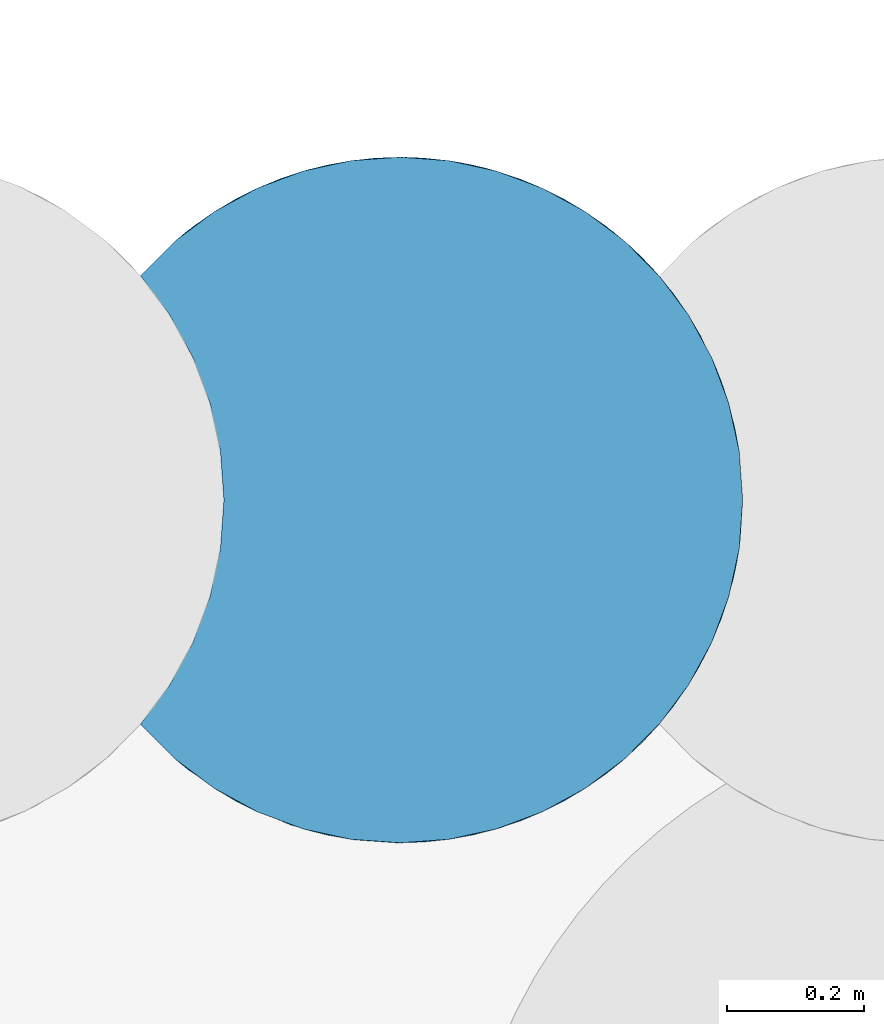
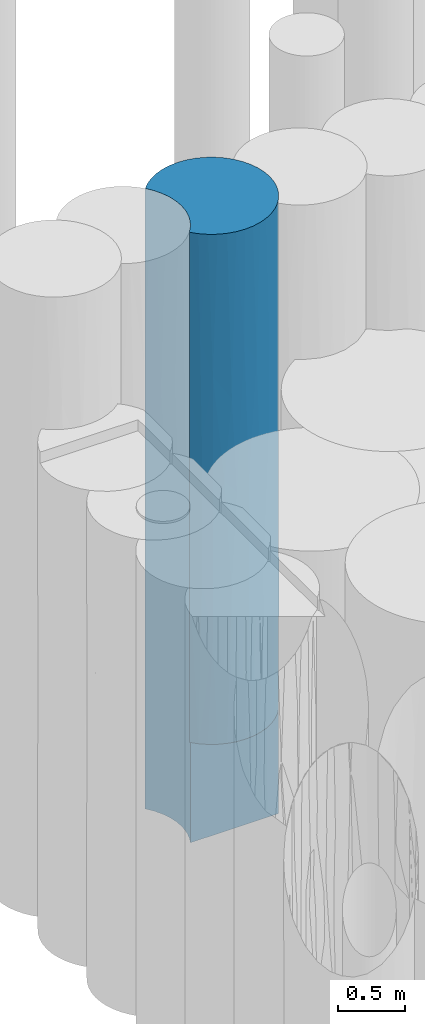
# One storey, part 28 of 104: 1 pile.
"""IFC2X3 building model written with IfcOpenShell, lengths in millimetres."""

from ifc_helpers import new_model, entity, si_unit, converted_unit, derived_unit, direction, frame, origin, place, context, subcontext, project, spatial, faceted_brep, source, transform, mapped, material, element, save


model = new_model("IFC2X3")

# Units and contexts
model_context = context("Model", 3, precision=0.01, world=origin(), true_north=direction((6.12303176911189e-17, 1.0)))
body_context = subcontext(model_context, "Body", "Model", "MODEL_VIEW")
ifc_project = project(units=[si_unit("LENGTHUNIT", "METRE", prefix="MILLI"), si_unit("AREAUNIT", "SQUARE_METRE", prefix="MILLI"), si_unit("VOLUMEUNIT", "CUBIC_METRE"), converted_unit("PLANEANGLEUNIT", "DEGREE", entity("IfcRatioMeasure", 0.0174532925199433), si_unit("PLANEANGLEUNIT", "RADIAN"), dimensions=[0, 0, 0, 0, 0, 0, 0]), si_unit("MASSUNIT", "GRAM", prefix="KILO"), derived_unit("MASSDENSITYUNIT", [(si_unit("MASSUNIT", "GRAM", prefix="KILO"), 1), (si_unit("LENGTHUNIT", "METRE"), -3)]), derived_unit("MOMENTOFINERTIAUNIT", [(si_unit("LENGTHUNIT", "METRE"), 4)]), si_unit("TIMEUNIT", "SECOND"), si_unit("FREQUENCYUNIT", "HERTZ"), si_unit("THERMODYNAMICTEMPERATUREUNIT", "DEGREE_CELSIUS"), derived_unit("THERMALTRANSMITTANCEUNIT", [(si_unit("MASSUNIT", "GRAM", prefix="KILO"), 1), (si_unit("THERMODYNAMICTEMPERATUREUNIT", "KELVIN"), -1), (si_unit("TIMEUNIT", "SECOND"), -3)]), derived_unit("VOLUMETRICFLOWRATEUNIT", [(si_unit("LENGTHUNIT", "METRE"), 3), (si_unit("TIMEUNIT", "SECOND"), -1)]), si_unit("ELECTRICCURRENTUNIT", "AMPERE"), si_unit("ELECTRICVOLTAGEUNIT", "VOLT"), si_unit("POWERUNIT", "WATT"), si_unit("FORCEUNIT", "NEWTON", prefix="KILO"), si_unit("ILLUMINANCEUNIT", "LUX"), si_unit("LUMINOUSFLUXUNIT", "LUMEN"), si_unit("LUMINOUSINTENSITYUNIT", "CANDELA"), derived_unit("USERDEFINED", [(si_unit("MASSUNIT", "GRAM", prefix="KILO"), -1), (si_unit("LENGTHUNIT", "METRE"), -2), (si_unit("TIMEUNIT", "SECOND"), 3), (si_unit("LUMINOUSFLUXUNIT", "LUMEN"), 1)]), derived_unit("LINEARVELOCITYUNIT", [(si_unit("LENGTHUNIT", "METRE"), 1), (si_unit("TIMEUNIT", "SECOND"), -1)]), si_unit("PRESSUREUNIT", "PASCAL"), derived_unit("USERDEFINED", [(si_unit("LENGTHUNIT", "METRE"), -2), (si_unit("MASSUNIT", "GRAM", prefix="KILO"), 1), (si_unit("TIMEUNIT", "SECOND"), -2)]), derived_unit("LINEARFORCEUNIT", [(si_unit("MASSUNIT", "GRAM", prefix="KILO"), 1), (si_unit("LENGTHUNIT", "METRE"), 1), (si_unit("TIMEUNIT", "SECOND"), -2), (si_unit("LENGTHUNIT", "METRE"), -1)]), derived_unit("PLANARFORCEUNIT", [(si_unit("MASSUNIT", "GRAM", prefix="KILO"), 1), (si_unit("LENGTHUNIT", "METRE"), 1), (si_unit("TIMEUNIT", "SECOND"), -2), (si_unit("LENGTHUNIT", "METRE"), -2)])], contexts=[model_context])

# Site, building, storey
site_placement = place(None, origin())
site = spatial("IfcSite", under=ifc_project, at=site_placement, Name="Theater aan de Parade", CompositionType="ELEMENT")
building_placement = place(site_placement, origin())
building = spatial("IfcBuilding", under=site, at=building_placement, Name="Theater aan de Parade", CompositionType="ELEMENT")
storey_placement = place(building_placement, frame((0.0, 0.0, -5520.0)))
storey = spatial("IfcBuildingStorey", under=building, at=storey_placement, Name="-2 kelder", CompositionType="ELEMENT", Elevation=-5520.0)

# Pile
ifc_material = material(Name="00_PBT_MAT_grout")
shared_shape = source(origin(), body_context, "Body", "Brep", [
    faceted_brep([(379.879894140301, 1001.59527223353, 0.0), (451.135842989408, 996.491974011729, 0.0), (520.937017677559, 981.286001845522, 0.0), (587.858902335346, 956.287680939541, 0.0), (650.535674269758, 922.007022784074, 0.0), (707.688019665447, 879.143347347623, 0.0), (758.137916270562, 828.577274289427, 0.0), (800.764509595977, 771.515742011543, 0.0), (834.842988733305, 708.98277557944, 0.0), (859.692501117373, 642.239896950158, 0.0), (874.807578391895, 572.642219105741, 0.0), (879.880986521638, 501.595272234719, 0.0), (876.637177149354, 444.733271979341, 0.0), (866.96351374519, 388.676665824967, 0.0), (850.978622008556, 334.063132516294, 0.0), (828.879872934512, 281.595272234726, 0.0), (72.3084443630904, 281.595272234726, 0.0), (94.4019982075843, 334.04852433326, 0.0), (110.389831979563, 388.666946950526, 0.0), (120.066807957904, 444.742527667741, 0.0), (123.309557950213, 501.595272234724, 0.0), (118.238136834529, 572.628375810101, 0.0), (103.126750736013, 642.220524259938, 0.0), (78.2819444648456, 708.959993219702, 0.0), (44.2077119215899, 771.492926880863, 0.0), (1.59527223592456, 828.550801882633, 0.0), (52.0619478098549, 879.132923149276, 0.0), (109.216398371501, 922.000648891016, 0.0), (171.896165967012, 956.284522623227, 0.0), (238.820552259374, 981.284707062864, 0.0), (308.623372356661, 996.491576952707, 0.0), (868.237975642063, 608.868060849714, 3274.7733182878), (879.880986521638, 501.595272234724, 2496.92455001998), (872.469147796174, 587.367665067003, 2029.23110971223), (874.807578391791, 572.642219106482, 5620.0), (872.790677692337, 585.500196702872, 4448.84672051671), (859.69250108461, 642.239897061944, 5620.0), (840.84871027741, 695.267050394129, 838.572364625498), (780.477533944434, 800.798223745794, 941.938246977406), (717.902638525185, 870.026219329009, 853.985396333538), (464.773906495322, 994.335763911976, 4766.2452474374), (554.84499069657, 969.9835697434, 4677.89128729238), (486.308348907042, 990.13720138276, 3926.99183942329), (780.477533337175, 800.798224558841, 4359.72037239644), (758.157091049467, 828.561919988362, 5620.0), (800.764509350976, 771.515742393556, 5620.0), (469.372625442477, 993.521330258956, 2771.91834266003), (619.810314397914, 940.268177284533, 2810.0), (486.308348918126, 990.137201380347, 1616.84484595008), (503.444214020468, 986.086891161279, 807.926128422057), (72.226388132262, 895.738200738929, 1468.54201705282), (1.59527223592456, 828.550801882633, 1561.53797879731), (273.450019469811, 990.136416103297, 1369.22367124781), (619.810315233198, 940.26817682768, 1308.96625276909), (879.880986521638, 501.595272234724, 4839.23113750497), (744.845895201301, 843.356322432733, 3309.55466343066), (679.878371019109, 901.59723384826, 4157.39703894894), (79.8725308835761, 901.58893036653, 4644.80342660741), (52.0619478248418, 879.132923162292, 5620.0), (109.21639835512, 922.000648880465, 5620.0), (879.880986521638, 501.595272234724, 1561.53772498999), (586.541682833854, 956.887877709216, 3739.26694369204), (389.039049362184, 1001.51139508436, 1793.99271443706), (868.490803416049, 607.710524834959, 929.942290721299), (451.135842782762, 996.491974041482, 5620.0), (379.879894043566, 1001.59527223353, 5620.0), (415.599127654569, 1000.31785483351, 908.530614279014), (848.45759074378, 676.054338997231, 4359.70948984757), (834.842988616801, 708.982775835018, 5620.0), (818.918499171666, 740.85676618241, 3234.26713947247), (1.59527223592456, 828.550801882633, 3123.07595759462), (61.9110545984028, 887.464579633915, 3590.76885422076), (68.1882758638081, 892.552628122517, 2590.58974056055), (344.160365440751, 1000.31767721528, 4295.47011353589), (308.62337232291, 996.491576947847, 5620.0), (650.535673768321, 922.007023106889, 5620.0), (707.688019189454, 879.143347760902, 5620.0), (171.89616594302, 956.284522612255, 5620.0), (238.820552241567, 981.284707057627, 5620.0), (204.911275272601, 969.981437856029, 4644.8057657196), (800.902375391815, 771.300648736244, 1891.90438181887), (848.457591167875, 676.054337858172, 1666.8684301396), (1.59527223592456, 828.550801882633, 5620.0), (139.943160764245, 940.263529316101, 960.825074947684), (879.880986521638, 501.595272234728, 4058.46227500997), (879.880986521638, 501.595272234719, 2810.0), (139.94316053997, 940.263529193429, 1976.25895999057), (249.525796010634, 984.303801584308, 3618.97619833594), (139.943160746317, 940.263529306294, 3852.81729588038), (733.827266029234, 854.755336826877, 1693.03978298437), (1.59527223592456, 828.550801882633, 4058.46202120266), (587.858901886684, 956.287681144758, 5620.0), (520.937017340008, 981.286001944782, 5620.0), (691.049980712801, 892.969590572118, 2404.07247122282), (879.880986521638, 501.595272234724, 5620.0), (148.84113916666, 945.01447449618, 2914.53812772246), (395.600625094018, 1001.34810410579, 3455.05166922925), (236.822647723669, 980.692664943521, 2354.51428914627), (344.160364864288, 1000.317677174, 2614.63322816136), (760.03102754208, 826.381273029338, 2475.87045222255), (852.90126574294, 663.619392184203, 2551.21472388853), (109.218127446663, 81.1887823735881, 1000.0), (171.900334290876, 46.9041151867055, 1000.0), (139.946073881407, 62.9254217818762, 1960.83076234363), (868.249817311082, 394.376406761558, 1095.51766968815), (52.0616515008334, 124.057878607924, 1000.0), (72.2277471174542, 107.451282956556, 2468.55227379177), (219.851591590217, 27.8964303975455, 3377.23961249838), (273.45793561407, 13.0524038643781, 2397.70917771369), (313.934714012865, 5.9632624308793, 3256.16165222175), (238.827254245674, 21.9038666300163, 1000.0), (308.63249502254, 6.69765407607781, 1000.0), (868.576941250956, 395.877422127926, 3250.85384075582), (872.224581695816, 414.430002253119, 4638.91679328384), (379.891107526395, 1.59527233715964, 1000.0), (451.14862368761, 6.70041078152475, 1000.0), (415.611160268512, 2.87355154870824, 2131.63816377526), (619.810315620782, 62.9223678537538, 4675.44822935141), (520.937017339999, 21.9045425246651, 5620.0), (486.308349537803, 13.0533432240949, 4394.9584207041), (139.943161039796, 62.9270150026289, 4329.65432444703), (171.89616594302, 46.9060218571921, 5620.0), (109.216398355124, 81.1898955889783, 5620.0), (415.611160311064, 2.87355155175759, 3309.99156499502), (374.929221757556, 1.61979281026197, 4574.50689499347), (139.946073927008, 62.9254217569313, 2976.27378498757), (554.858770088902, 33.2121221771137, 2398.16872201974), (520.950689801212, 21.9085632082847, 1000.0), (587.872693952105, 46.9091721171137, 1000.0), (865.283747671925, 381.661292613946, 2185.76885280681), (650.548786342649, 81.191963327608, 1000.0), (679.890799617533, 101.602632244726, 2277.93081230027), (753.904323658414, 169.772212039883, 1973.19405511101), (778.382906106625, 199.608153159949, 3310.00863151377), (702.650683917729, 119.731785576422, 3256.91390852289), (1.59527223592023, 174.639742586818, 2561.53770750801), (1.59527223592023, 174.639742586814, 3342.30656126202), (1.59527223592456, 174.639742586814, 4123.07541501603), (71.0484315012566, 108.374656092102, 3732.69098814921), (61.1388618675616, 116.363578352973, 4662.75544674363), (834.030131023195, 292.433720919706, 3150.31987590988), (848.457591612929, 327.136207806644, 4098.49681985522), (828.879872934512, 281.595272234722, 1000.0), (523.466913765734, 22.6557337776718, 3362.22140211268), (273.450019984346, 13.0541282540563, 4114.5813713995), (238.820552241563, 21.9058374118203, 5620.0), (308.623372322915, 6.69896752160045, 5620.0), (1.59527223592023, 174.639742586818, 1000.0), (451.135842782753, 6.69857042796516, 5620.0), (379.879894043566, 1.5952722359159, 5620.0), (619.810315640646, 62.9223678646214, 3675.4049436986), (707.699703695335, 124.05734212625, 1000.0), (813.813841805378, 253.195841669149, 2211.63549262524), (796.953909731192, 225.823307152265, 1000.0), (800.764509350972, 231.674802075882, 5620.0), (800.620012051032, 231.449621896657, 4238.53718624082), (834.842988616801, 294.207768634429, 5620.0), (758.166700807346, 174.639742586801, 1000.0), (733.827266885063, 148.43520850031, 4404.10424705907), (758.157091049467, 174.628624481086, 5620.0), (587.85890188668, 46.9028633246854, 5620.0), (859.692501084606, 360.950647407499, 5620.0), (1.59527223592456, 174.639742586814, 5620.0), (650.535673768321, 81.1835213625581, 5620.0), (707.688019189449, 124.047196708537, 5620.0), (874.807578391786, 430.548325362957, 5620.0), (52.0619478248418, 124.057621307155, 5620.0), (118.238136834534, 572.628375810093, 5620.0), (123.309557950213, 501.595272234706, 5620.0), (118.238136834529, 430.562168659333, 5620.0), (103.126750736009, 360.970020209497, 5620.0), (78.2819444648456, 294.230551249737, 5620.0), (44.2077119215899, 231.697617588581, 5620.0), (44.2077119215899, 771.492926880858, 5620.0), (78.2819444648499, 708.959993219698, 5620.0), (103.126750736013, 642.220524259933, 5620.0), (57.6972719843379, 749.198410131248, 1466.57770300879), (91.8940522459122, 676.033145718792, 959.607558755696), (91.8940518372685, 676.033146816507, 1973.54784366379), (51.0253182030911, 760.553238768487, 3590.76885486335), (55.246519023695, 753.449320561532, 2591.96489924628), (114.790868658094, 593.498053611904, 2591.96487227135), (113.865321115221, 598.316744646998, 1466.57769835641), (123.309557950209, 501.595272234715, 1561.53772533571), (116.242558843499, 585.363145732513, 3590.76885123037), (123.309557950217, 501.595272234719, 3123.07545067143), (123.309557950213, 501.595272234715, 4058.46227466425), (91.8940514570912, 676.033147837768, 3856.20826799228), (111.923000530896, 607.693828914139, 4646.91290735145), (62.3595462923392, 740.833872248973, 4646.91290345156), (123.309557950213, 501.595272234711, 2810.0), (62.3595469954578, 262.356673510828, 4717.37896061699), (111.564927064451, 393.860901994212, 1098.76555933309), (72.308444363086, 281.595272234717, 1000.0), (103.748191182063, 363.108017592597, 2185.76885279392), (59.5557267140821, 257.28137529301, 2036.35430148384), (80.3363404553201, 298.798526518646, 3013.88536214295), (40.394470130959, 225.841439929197, 1000.0), (52.9290067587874, 245.807998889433, 3897.62512214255), (111.923000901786, 395.496717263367, 4717.37896068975), (91.8940525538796, 327.157399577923, 4015.21085337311), (113.298293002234, 402.041068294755, 3273.65625530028)], [[[0, 1, 2, 3, 4, 5, 6, 7, 8, 9, 10, 11, 12, 13, 14, 15, 16, 17, 18, 19, 20, 21, 22, 23, 24, 25, 26, 27, 28, 29, 30]], [[31, 32, 33]], [[34, 35, 36]], [[37, 7, 38]], [[6, 5, 39]], [[7, 6, 38]], [[40, 41, 42]], [[43, 44, 45]], [[46, 47, 48]], [[2, 49, 3]], [[50, 26, 51]], [[30, 29, 52]], [[53, 39, 4]], [[38, 6, 39]], [[35, 34, 54]], [[55, 47, 56]], [[53, 4, 3]], [[57, 58, 59]], [[60, 33, 32]], [[41, 61, 42]], [[48, 62, 46]], [[63, 10, 9]], [[64, 40, 65]], [[66, 62, 48]], [[36, 67, 68]], [[53, 3, 49]], [[67, 43, 68]], [[69, 67, 31]], [[70, 71, 72]], [[68, 43, 45]], [[73, 74, 65]], [[75, 76, 56]], [[77, 78, 79]], [[41, 75, 56]], [[37, 80, 81]], [[30, 52, 66]], [[82, 58, 57]], [[48, 49, 66]], [[55, 43, 69]], [[52, 29, 83]], [[31, 84, 85, 32]], [[86, 83, 50]], [[79, 87, 88]], [[63, 9, 37]], [[37, 9, 8]], [[39, 89, 38]], [[51, 26, 25]], [[83, 28, 27]], [[47, 53, 48]], [[11, 10, 63]], [[90, 71, 70]], [[67, 69, 43]], [[91, 41, 92]], [[93, 53, 47]], [[41, 40, 92]], [[40, 64, 92]], [[34, 94, 54]], [[56, 43, 55]], [[66, 49, 1]], [[79, 88, 57]], [[72, 95, 86]], [[42, 96, 73]], [[97, 52, 86]], [[79, 74, 73]], [[83, 29, 28]], [[59, 77, 79]], [[43, 76, 44]], [[72, 51, 70]], [[1, 0, 66]], [[76, 43, 56]], [[79, 57, 59]], [[83, 27, 26]], [[52, 83, 86]], [[74, 79, 78]], [[87, 79, 73]], [[71, 57, 88]], [[82, 57, 90]], [[75, 41, 91]], [[61, 56, 47]], [[80, 38, 89]], [[37, 81, 63]], [[33, 63, 81]], [[11, 63, 60]], [[30, 66, 0]], [[62, 52, 98]], [[96, 87, 73]], [[95, 97, 86]], [[99, 80, 89]], [[100, 80, 69]], [[56, 61, 41]], [[46, 61, 47]], [[63, 33, 60]], [[33, 100, 31]], [[33, 81, 100]], [[67, 35, 31]], [[57, 71, 90]], [[95, 72, 71]], [[95, 71, 88]], [[72, 86, 50]], [[80, 100, 81]], [[69, 31, 100]], [[52, 62, 66]], [[46, 62, 98]], [[88, 87, 95]], [[97, 87, 98]], [[87, 97, 95]], [[52, 97, 98]], [[99, 69, 80]], [[99, 93, 55]], [[26, 50, 83]], [[72, 50, 51]], [[42, 73, 40]], [[65, 40, 73]], [[4, 39, 5]], [[53, 89, 39]], [[7, 37, 8]], [[80, 37, 38]], [[53, 49, 48]], [[1, 49, 2]], [[93, 99, 89]], [[69, 99, 55]], [[53, 93, 89]], [[55, 93, 47]], [[96, 46, 98]], [[46, 42, 61]], [[46, 96, 42]], [[87, 96, 98]], [[35, 54, 84]], [[31, 35, 84]], [[35, 67, 36]], [[101, 102, 103]], [[11, 60, 104]], [[105, 103, 106]], [[107, 108, 109]], [[108, 110, 111]], [[112, 84, 113]], [[114, 115, 116]], [[117, 118, 119]], [[120, 121, 122]], [[123, 119, 124]], [[103, 110, 108]], [[108, 111, 116]], [[108, 125, 103]], [[126, 127, 128]], [[129, 104, 60]], [[130, 131, 128]], [[132, 133, 134]], [[127, 126, 116]], [[135, 106, 136]], [[137, 138, 139]], [[140, 112, 141]], [[142, 14, 104]], [[138, 106, 125]], [[141, 112, 113]], [[143, 116, 126]], [[120, 144, 145]], [[145, 144, 146]], [[146, 144, 124]], [[109, 123, 124]], [[147, 105, 135]], [[148, 149, 124]], [[116, 111, 114]], [[148, 119, 118]], [[150, 143, 126]], [[131, 130, 151]], [[112, 129, 85]], [[152, 132, 153]], [[154, 155, 156]], [[132, 157, 153]], [[158, 155, 159]], [[129, 112, 140]], [[152, 153, 142]], [[129, 60, 32, 85]], [[116, 123, 109]], [[13, 104, 14]], [[117, 160, 118]], [[106, 103, 125]], [[12, 11, 104]], [[14, 142, 15]], [[103, 102, 110]], [[103, 105, 101]], [[161, 156, 141]], [[126, 128, 131]], [[162, 137, 139]], [[117, 163, 160]], [[126, 131, 150]], [[151, 157, 132]], [[107, 120, 125]], [[158, 164, 117]], [[133, 155, 158]], [[117, 164, 163]], [[158, 159, 164]], [[155, 154, 159]], [[94, 165, 113]], [[119, 150, 117]], [[143, 119, 123]], [[120, 145, 121]], [[134, 158, 150]], [[113, 161, 141]], [[150, 131, 134]], [[116, 115, 127]], [[148, 124, 119]], [[158, 117, 150]], [[122, 166, 139]], [[142, 129, 152]], [[138, 120, 139]], [[105, 106, 135]], [[138, 137, 136]], [[106, 138, 136]], [[125, 120, 138]], [[122, 139, 120]], [[162, 139, 166]], [[142, 104, 129]], [[12, 104, 13]], [[84, 112, 85]], [[155, 140, 141]], [[133, 152, 140]], [[129, 140, 152]], [[113, 84, 54, 94]], [[161, 113, 165]], [[119, 143, 150]], [[116, 143, 123]], [[107, 109, 144]], [[116, 109, 108]], [[120, 107, 144]], [[108, 107, 125]], [[133, 132, 152]], [[151, 132, 131]], [[132, 134, 131]], [[158, 134, 133]], [[140, 155, 133]], [[155, 141, 156]], [[146, 124, 149]], [[124, 144, 109]], [[167, 168, 169, 170, 171, 172, 162, 166, 122, 121, 145, 146, 149, 148, 118, 160, 163, 164, 159, 154, 156, 161, 165, 94, 34, 36, 68, 45, 44, 76, 75, 91, 92, 64, 65, 74, 78, 77, 59, 58, 82, 173, 174, 175]], [[176, 177, 178]], [[179, 70, 180]], [[181, 182, 183]], [[24, 51, 25]], [[184, 185, 186]], [[21, 182, 177]], [[187, 188, 189]], [[22, 21, 177]], [[23, 22, 177]], [[70, 51, 180]], [[188, 167, 175]], [[188, 186, 168]], [[90, 70, 179]], [[174, 173, 189]], [[24, 23, 177]], [[175, 174, 188]], [[174, 189, 188]], [[187, 181, 184]], [[189, 173, 82]], [[51, 24, 176]], [[178, 177, 182]], [[183, 21, 20]], [[167, 188, 168]], [[186, 188, 184]], [[187, 189, 179]], [[90, 189, 82]], [[185, 184, 181]], [[187, 184, 188]], [[181, 183, 190, 185]], [[180, 178, 181]], [[90, 179, 189]], [[180, 181, 187]], [[179, 180, 187]], [[176, 178, 180]], [[177, 176, 24]], [[51, 176, 180]], [[178, 182, 181]], [[183, 182, 21]], [[172, 171, 191]], [[192, 17, 193]], [[194, 195, 196]], [[147, 195, 197]], [[192, 193, 194]], [[198, 135, 136, 137]], [[193, 197, 195]], [[168, 199, 169]], [[191, 137, 162]], [[198, 191, 200]], [[17, 16, 193]], [[196, 198, 200]], [[183, 194, 190]], [[172, 191, 162]], [[186, 199, 168]], [[199, 191, 171, 170]], [[18, 17, 192]], [[20, 19, 192]], [[186, 201, 199]], [[200, 191, 199]], [[169, 199, 170]], [[200, 199, 201]], [[137, 191, 198]], [[201, 196, 200]], [[192, 183, 20]], [[201, 190, 194]], [[196, 135, 198]], [[193, 195, 194]], [[195, 135, 196]], [[147, 135, 195]], [[196, 201, 194]], [[201, 186, 185, 190]], [[18, 192, 19]], [[183, 192, 194]], [[102, 101, 105, 147, 197, 193, 142, 153, 157, 151, 130, 128, 127, 115, 114, 111, 110]], [[193, 16, 15, 142]]]),
])
pile_placement = place(storey_placement, frame((35887.120000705, 26760.7721311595, -3840.0)))
element("IfcPile", 1, at=pile_placement, inside=storey, material=ifc_material, Name="17_PBT_SFO_grondkering_rond:Ø1000 (grondkering)", ObjectType="17_PBT_SFO_grondkering_rond:Ø1000 (grondkering)", PredefinedType="NOTDEFINED", context=body_context, shape_type="MappedRepresentation", body=[
    mapped(shared_shape, transform((0.0, 0.0, 0.0), scale=1.0)),
])

save(model, "model.ifc")
